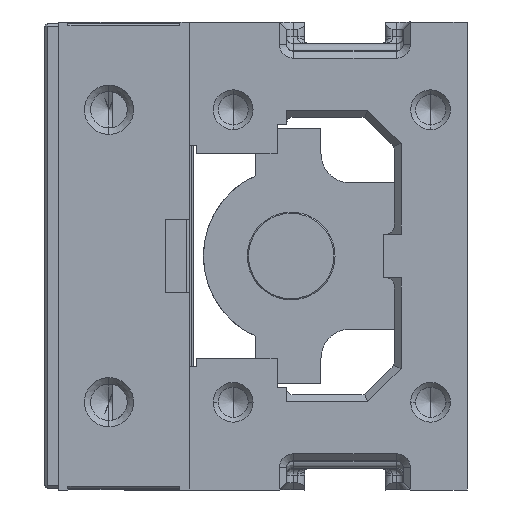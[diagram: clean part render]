
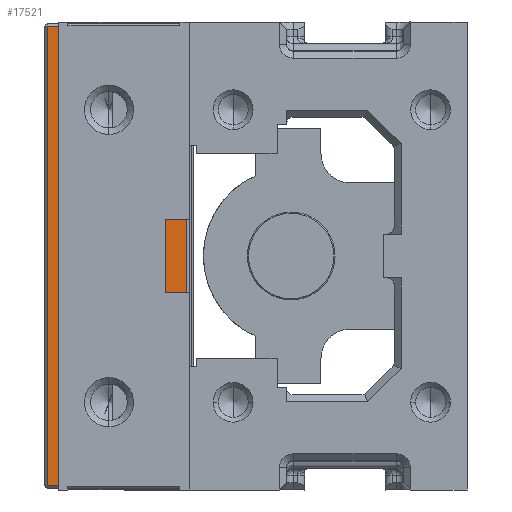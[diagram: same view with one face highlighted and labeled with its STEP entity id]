
A CAD part, left-side view. The second image highlights one B-rep face of the part: STEP entity #17521.
In plain terms, the highlighted planar face has unit normal (-1, 0, 0).
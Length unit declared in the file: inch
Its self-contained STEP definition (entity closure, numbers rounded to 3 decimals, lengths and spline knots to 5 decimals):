
#35 = VERTEX_POINT ( 'NONE', #3542 ) ;
#789 = VECTOR ( 'NONE', #21698, 39.37008 ) ;
#1434 = CARTESIAN_POINT ( 'NONE',  ( -4.781, 3.062, 1.25 ) ) ;
#1493 = DIRECTION ( 'NONE',  ( 1., 0., 0. ) ) ;
#2809 = ORIENTED_EDGE ( 'NONE', *, *, #11271, .T. ) ;
#2937 = EDGE_LOOP ( 'NONE', ( #2809, #32398, #40317, #14155 ) ) ;
#3542 = CARTESIAN_POINT ( 'NONE',  ( -4.781, 3.062, 1.4831 ) ) ;
#4288 = AXIS2_PLACEMENT_3D ( 'NONE', #39971, #20147, #25902 ) ;
#4386 = DIRECTION ( 'NONE',  ( 0., 0., 1. ) ) ;
#5019 = AXIS2_PLACEMENT_3D ( 'NONE', #36269, #16052, #22642 ) ;
#5861 = FACE_BOUND ( 'NONE', #40432, .T. ) ;
#5977 = CARTESIAN_POINT ( 'NONE',  ( -4.781, 3.062, -1.4831 ) ) ;
#7785 = VERTEX_POINT ( 'NONE', #36901 ) ;
#8416 = CIRCLE ( 'NONE', #30911, 0.2331 ) ;
#9285 = DIRECTION ( 'NONE',  ( 0., -1., 0. ) ) ;
#10430 = DIRECTION ( 'NONE',  ( 0., 0., 1. ) ) ;
#10449 = EDGE_CURVE ( 'NONE', #38539, #7785, #31920, .T. ) ;
#10935 = EDGE_LOOP ( 'NONE', ( #16166, #11692 ) ) ;
#11271 = EDGE_CURVE ( 'NONE', #41340, #12781, #11787, .T. ) ;
#11692 = ORIENTED_EDGE ( 'NONE', *, *, #28354, .T. ) ;
#11787 = LINE ( 'NONE', #14665, #789 ) ;
#12439 = EDGE_CURVE ( 'NONE', #7785, #41340, #28935, .T. ) ;
#12652 = CARTESIAN_POINT ( 'NONE',  ( -4.781, 3.61, 1.9645 ) ) ;
#12781 = VERTEX_POINT ( 'NONE', #30984 ) ;
#14155 = ORIENTED_EDGE ( 'NONE', *, *, #12439, .T. ) ;
#14390 = ORIENTED_EDGE ( 'NONE', *, *, #23287, .T. ) ;
#14665 = CARTESIAN_POINT ( 'NONE',  ( -4.781, 3.59, 1.9845 ) ) ;
#15625 = CARTESIAN_POINT ( 'NONE',  ( -4.781, 3.59, 1.9645 ) ) ;
#15865 = CIRCLE ( 'NONE', #16554, 0.2331 ) ;
#16039 = EDGE_CURVE ( 'NONE', #41035, #37070, #8416, .T. ) ;
#16052 = DIRECTION ( 'NONE',  ( 1., 0., 0. ) ) ;
#16166 = ORIENTED_EDGE ( 'NONE', *, *, #36894, .T. ) ;
#16554 = AXIS2_PLACEMENT_3D ( 'NONE', #20545, #33986, #10430 ) ;
#17459 = VECTOR ( 'NONE', #4386, 39.37008 ) ;
#17521 = ADVANCED_FACE ( 'NONE', ( #5861, #29428, #39534 ), #42849, .T. ) ;
#20147 = DIRECTION ( 'NONE',  ( -1., 0., 0. ) ) ;
#20545 = CARTESIAN_POINT ( 'NONE',  ( -4.781, 3.062, -1.25 ) ) ;
#21008 = CARTESIAN_POINT ( 'NONE',  ( -4.781, 2.395, -1.9645 ) ) ;
#21137 = CARTESIAN_POINT ( 'NONE',  ( -4.781, 2.395, 1.9845 ) ) ;
#21259 = DIRECTION ( 'NONE',  ( 0., 0., 1. ) ) ;
#21698 = DIRECTION ( 'NONE',  ( 0., 0., -1. ) ) ;
#22642 = DIRECTION ( 'NONE',  ( 0., 0., 1. ) ) ;
#23287 = EDGE_CURVE ( 'NONE', #37070, #41035, #15865, .T. ) ;
#23326 = CIRCLE ( 'NONE', #5019, 0.2331 ) ;
#25627 = DIRECTION ( 'NONE',  ( 0., 1., 0. ) ) ;
#25902 = DIRECTION ( 'NONE',  ( 0., 0., 1. ) ) ;
#26019 = LINE ( 'NONE', #39443, #38178 ) ;
#26992 = VERTEX_POINT ( 'NONE', #40216 ) ;
#27693 = ORIENTED_EDGE ( 'NONE', *, *, #16039, .T. ) ;
#28331 = VECTOR ( 'NONE', #25627, 39.37008 ) ;
#28354 = EDGE_CURVE ( 'NONE', #26992, #35, #23326, .T. ) ;
#28601 = DIRECTION ( 'NONE',  ( 0., 0., 1. ) ) ;
#28935 = LINE ( 'NONE', #12652, #28331 ) ;
#29428 = FACE_BOUND ( 'NONE', #10935, .T. ) ;
#29786 = EDGE_CURVE ( 'NONE', #12781, #38539, #26019, .T. ) ;
#30911 = AXIS2_PLACEMENT_3D ( 'NONE', #31680, #1493, #28601 ) ;
#30984 = CARTESIAN_POINT ( 'NONE',  ( -4.781, 3.59, -1.9645 ) ) ;
#31680 = CARTESIAN_POINT ( 'NONE',  ( -4.781, 3.062, -1.25 ) ) ;
#31920 = LINE ( 'NONE', #21137, #17459 ) ;
#32398 = ORIENTED_EDGE ( 'NONE', *, *, #29786, .T. ) ;
#33986 = DIRECTION ( 'NONE',  ( 1., 0., 0. ) ) ;
#35134 = DIRECTION ( 'NONE',  ( 1., 0., 0. ) ) ;
#36269 = CARTESIAN_POINT ( 'NONE',  ( -4.781, 3.062, 1.25 ) ) ;
#36894 = EDGE_CURVE ( 'NONE', #35, #26992, #43307, .T. ) ;
#36901 = CARTESIAN_POINT ( 'NONE',  ( -4.781, 2.395, 1.9645 ) ) ;
#37070 = VERTEX_POINT ( 'NONE', #43038 ) ;
#38178 = VECTOR ( 'NONE', #9285, 39.37008 ) ;
#38539 = VERTEX_POINT ( 'NONE', #21008 ) ;
#39443 = CARTESIAN_POINT ( 'NONE',  ( -4.781, 3.61, -1.9645 ) ) ;
#39534 = FACE_OUTER_BOUND ( 'NONE', #2937, .T. ) ;
#39971 = CARTESIAN_POINT ( 'NONE',  ( -4.781, 3.61, 1.9845 ) ) ;
#40216 = CARTESIAN_POINT ( 'NONE',  ( -4.781, 3.062, 1.0169 ) ) ;
#40317 = ORIENTED_EDGE ( 'NONE', *, *, #10449, .T. ) ;
#40432 = EDGE_LOOP ( 'NONE', ( #14390, #27693 ) ) ;
#41035 = VERTEX_POINT ( 'NONE', #5977 ) ;
#41210 = AXIS2_PLACEMENT_3D ( 'NONE', #1434, #35134, #21259 ) ;
#41340 = VERTEX_POINT ( 'NONE', #15625 ) ;
#42849 = PLANE ( 'NONE',  #4288 ) ;
#43038 = CARTESIAN_POINT ( 'NONE',  ( -4.781, 3.062, -1.0169 ) ) ;
#43307 = CIRCLE ( 'NONE', #41210, 0.2331 ) ;
